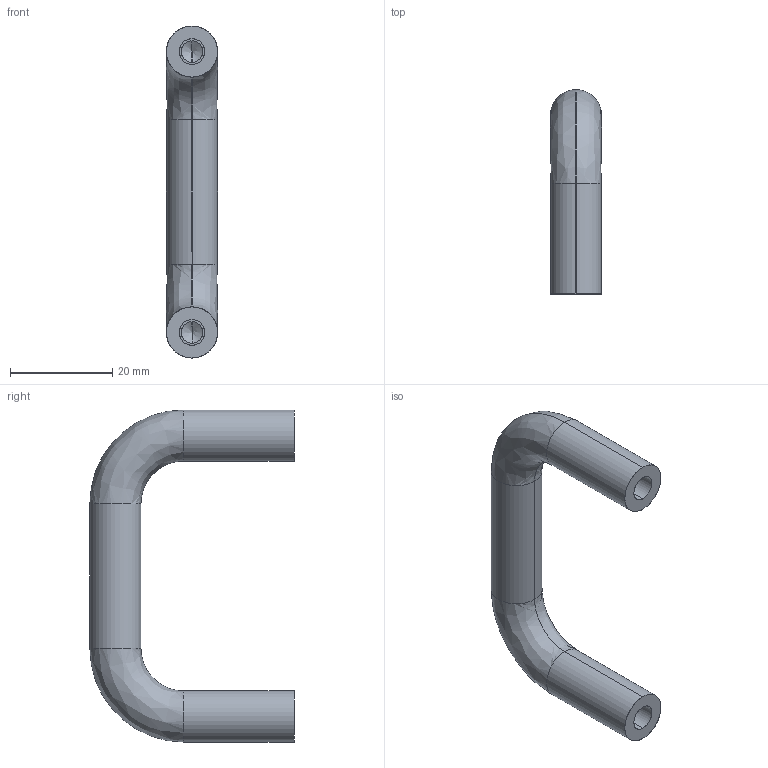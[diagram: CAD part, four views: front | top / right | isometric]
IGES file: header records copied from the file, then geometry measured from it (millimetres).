
Start section: SolidWorks IGES file using analytic representation for surfaces
Global section: file name: C:\Users\IanO\Desktop\Temp File\Process pending\79840_v2\79840_v2_20171115_IGES\79840.W0005.igs; native system: SolidWorks 2017; preprocessor: SolidWorks 2017; author: IanO; date: 171115.103642; units: millimetre
Bounding box: 10 x 40 x 65 mm (x, y, z)
Surface area: 4078 mm2 (no closed solid volume)
Topology: 0 solids, 0 shells, 26 faces, 344 edges, 340 vertices
Faces by surface type: revolution 18, bspline 8
